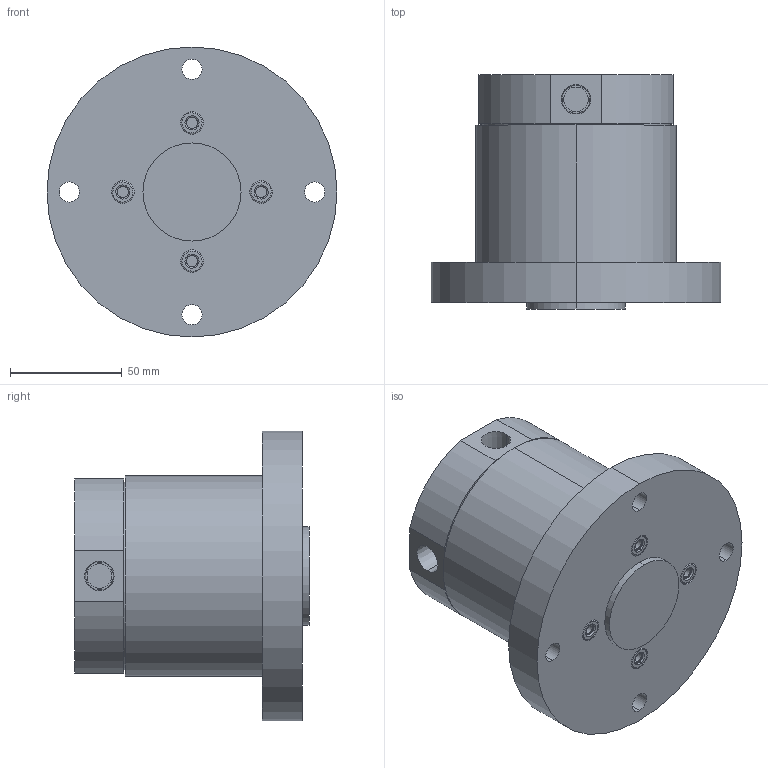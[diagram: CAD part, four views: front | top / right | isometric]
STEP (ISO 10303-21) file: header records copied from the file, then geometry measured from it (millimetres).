
FILE_DESCRIPTION((' '),'2;1');
FILE_NAME( 'PTMC4.x_t.stp', '2025-01-06T11:28:00', (' '), ('--- Datakit www.datakit.com---'), ' Datakit CrossCadWare V2024.1 Dec 21 2023', 'Mastercam 2025', ' ');
FILE_SCHEMA(('AUTOMOTIVE_DESIGN { 1 0 10303 214 1 1 1 1 }'));
Length unit declared in the file: millimetre
Products named in the file (1): PTMC4
Bounding box: 130 x 105 x 130 mm (x, y, z)
Volume: 755580.1 mm3; surface area: 78341.3 mm2
Topology: 6 solids, 6 shells, 162 faces, 396 edges, 274 vertices
Faces by surface type: cylinder 78, plane 44, torus 32, cone 8
Entity records: 5151 total; most frequent: DIRECTION 1020, CARTESIAN_POINT 833, ORIENTED_EDGE 792, AXIS2_PLACEMENT_3D 461, EDGE_CURVE 396, CIRCLE 298, VERTEX_POINT 274, EDGE_LOOP 206
